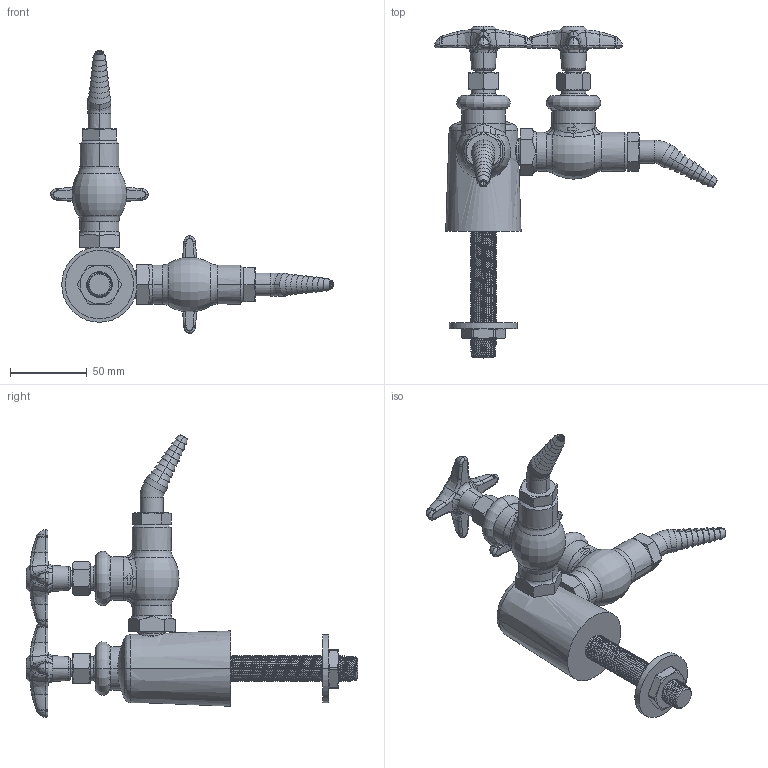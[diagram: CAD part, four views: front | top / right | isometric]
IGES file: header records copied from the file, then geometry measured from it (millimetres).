
Start section:  PTC IGES file: LGF1-A21A-20.igs
Global section: file name: LGF1-A21A-20.igs; native system: Creo Parametric by PTC Inc.; preprocessor: 2014500; author: usch_engrender; organization: Unknown; date: 20160106.181033; units: inch
Bounding box: 183.89 x 215.83 x 183.89 mm (x, y, z)
Volume: 304992.5 mm3; surface area: 68887.1 mm2
Topology: 1 solids, 11 shells, 953 faces, 2320 edges, 1419 vertices
Faces by surface type: bspline 539, revolution 414
